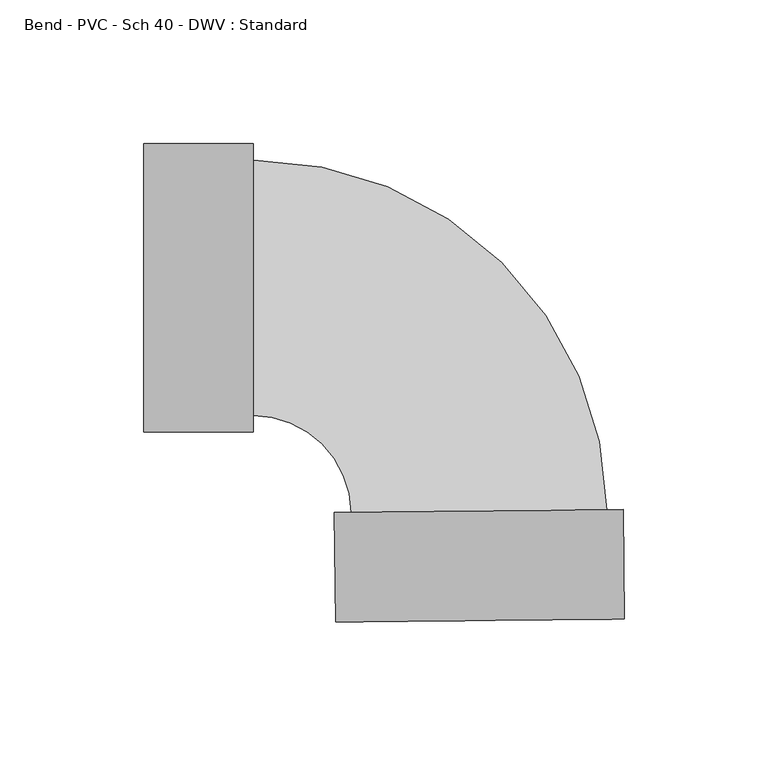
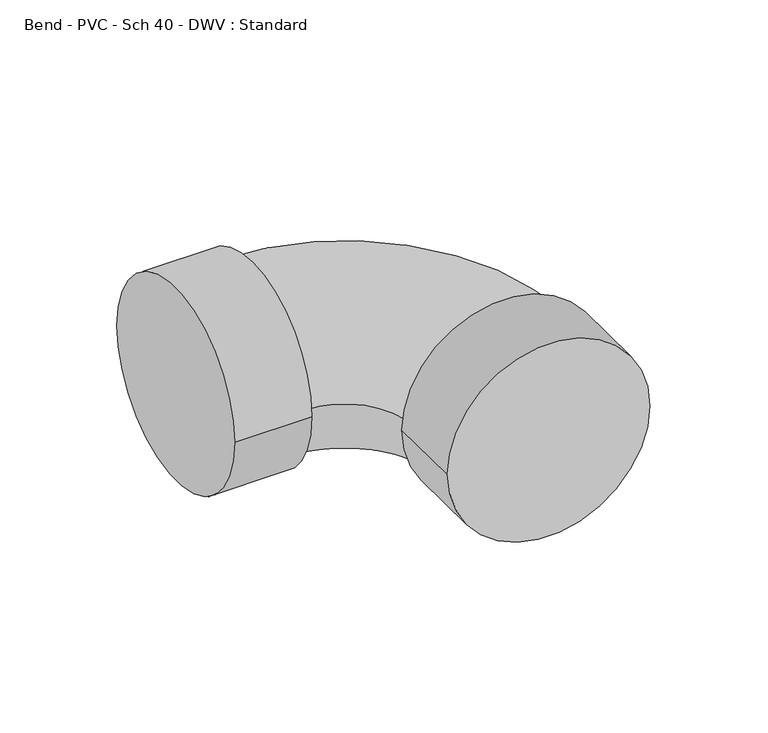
"""IFC4 building model written with IfcOpenShell, lengths in millimetres: pipe fitting geometry, Bend - PVC - Sch 40 - DWV : Standard."""

from ifc_helpers import new_model, si_unit, point, frame, origin, place, context, project, spatial, circle_curve, ellipse_curve, trimmed, source, transform, mapped, element, save
from ifc_brep_helpers import plane_surface, cylinder_surface, revolved_surface, advanced_brep


def bend_pvc_sch_40_dwv_standard_00a057dc(model_context):
    return source(origin(), model_context, "Body", "AdvancedBrep", [
        advanced_brep(
        [(-115.9002, 50.2666, 0.0), (-115.9002, -50.2666, 0.0), (-77.8002, 50.2666, 0.0), (-77.8002, -50.2666, 0.0), (-77.8002, 44.45, 0.0), (-77.8002, -44.45, 0.0), (-43.6372138, -78.2589751, 0.0), (45.2579634, -77.3329837, 0.0), (51.0742479, -77.2723974, 0.0), (-49.4534983, -78.3195614, 0.0), (51.4711013, -115.3703305, 0.0), (-49.0566448, -116.4174945, 0.0)],
        [
            (0, 1, circle_curve(frame((-115.9002, 0.0, 0.0), z_axis=(-1.0, 0.0, 0.0), x_axis=(0.0, -1.0, 0.0)), 50.2666)),
            (1, 0, circle_curve(frame((-115.9002, 0.0, 0.0), z_axis=(-1.0, 0.0, 0.0), x_axis=(0.0, -1.0, 0.0)), 50.2666)),
            (2, 3, circle_curve(frame((-77.8002, 0.0, 0.0), z_axis=(1.0, 0.0, 0.0), x_axis=(0.0, -1.0, 0.0)), 50.2666)),
            (3, 2, circle_curve(frame((-77.8002, 0.0, 0.0), z_axis=(1.0, 0.0, 0.0), x_axis=(0.0, -1.0, 0.0)), 50.2666)),
            (4, 5, circle_curve(frame((-77.8002, 0.0, 0.0), z_axis=(-1.0, 0.0, 0.0), x_axis=(0.0, -1.0, 0.0)), 44.45)),
            (5, 4, circle_curve(frame((-77.8002, 0.0, 0.0), z_axis=(-1.0, 0.0, 0.0), x_axis=(0.0, -1.0, 0.0)), 44.45)),
            (1, 3),
            (2, 0),
            (6, 7, circle_curve(frame((0.8103748, -77.7959794, 0.0), z_axis=(-0.010416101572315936, 0.9999457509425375, 0.0), x_axis=(-0.9999457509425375, -0.010416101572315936, 0.0)), 44.45)),
            (7, 4, circle_curve(frame((-77.8002, -78.6148396, 0.0), z_axis=(0.0, 0.0, 1.0), x_axis=(0.0, 1.0, 0.0)), 123.0648396)),
            (5, 6, circle_curve(frame((-77.8002, -78.6148396, 0.0), z_axis=(0.0, 0.0, -1.0), x_axis=(0.0, 1.0, 0.0)), 34.1648396)),
            (7, 6, circle_curve(frame((0.8103748, -77.7959794, 0.0), z_axis=(-0.010416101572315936, 0.9999457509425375, 0.0), x_axis=(-0.9999457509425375, -0.010416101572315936, 0.0)), 44.45)),
            (8, 9, circle_curve(frame((0.8103748, -77.7959794, 0.0), z_axis=(-0.010416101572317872, 0.9999457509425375, 0.0), x_axis=(-0.9999457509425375, -0.010416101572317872, 0.0)), 50.2666)),
            (9, 8, circle_curve(frame((0.8103748, -77.7959794, 0.0), z_axis=(-0.010416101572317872, 0.9999457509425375, 0.0), x_axis=(-0.9999457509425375, -0.010416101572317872, 0.0)), 50.2666)),
            (10, 11, circle_curve(frame((1.2072283, -115.8939125, 0.0), z_axis=(0.010416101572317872, -0.9999457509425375, 0.0), x_axis=(-0.9999457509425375, -0.010416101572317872, 0.0)), 50.2666)),
            (11, 10, circle_curve(frame((1.2072283, -115.8939125, 0.0), z_axis=(0.010416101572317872, -0.9999457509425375, 0.0), x_axis=(-0.9999457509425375, -0.010416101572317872, 0.0)), 50.2666)),
            (9, 11),
            (10, 8),
        ],
        [
            plane_surface(frame((-115.9002, 0.0, 0.0), z_axis=(-1.0, 0.0, 0.0), x_axis=(0.0, 0.0, 1.0))),
            plane_surface(frame((-77.8002, 0.0, 0.0), z_axis=(1.0, 0.0, 0.0), x_axis=(0.0, 0.0, 1.0))),
            cylinder_surface(frame((-115.9002, 0.0, 0.0), z_axis=(-1.0, 0.0, 0.0), x_axis=(0.0, -1.0, 0.0)), 50.2666),
            revolved_surface(trimmed(ellipse_curve(frame((-77.8002, 0.0, 0.0), z_axis=(1.0, 0.0, 0.0), x_axis=(0.0, -1.0, 0.0)), 44.45, 44.45), [point((-77.8002, 44.45, 0.0))], [point((-77.8002, -44.45, 0.0))], True, "CARTESIAN"), (-77.8002, -78.6148396, 0.0), (0.0, 0.0, 1.0)),
            revolved_surface(trimmed(ellipse_curve(frame((-77.8002, 0.0, 0.0), z_axis=(1.0, 0.0, 0.0), x_axis=(0.0, -1.0, 0.0)), 44.45, 44.45), [point((-77.8002, -44.45, 0.0))], [point((-77.8002, 44.45, 0.0))], True, "CARTESIAN"), (-77.8002, -78.6148396, 0.0), (0.0, 0.0, 1.0)),
            plane_surface(frame((0.8103748, -77.7959794, 0.0), z_axis=(-0.010416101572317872, 0.9999457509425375, 0.0), x_axis=(0.0, 0.0, 1.0))),
            plane_surface(frame((1.2072283, -115.8939125, 0.0), z_axis=(0.010416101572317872, -0.9999457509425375, 0.0), x_axis=(0.0, 0.0, 1.0))),
            cylinder_surface(frame((0.8103748, -77.7959794, 0.0), z_axis=(-0.010416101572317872, 0.9999457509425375, 0.0), x_axis=(-0.9999457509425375, -0.010416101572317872, 0.0)), 50.2666),
        ],
        [
            (0, [[1, 2]]),
            (1, [[3, 4], [5, 6]]),
            (2, [[7, -3, 8, -2]]),
            (2, [[-8, -4, -7, -1]]),
            (3, [[9, 10, -6, 11]]),
            (4, [[-5, -10, 12, -11]]),
            (5, [[13, 14], [-12, -9]]),
            (6, [[15, 16]]),
            (7, [[17, -15, 18, -14]]),
            (7, [[-18, -16, -17, -13]]),
        ],
    ),
    ])


if __name__ == "__main__":
    model = new_model("IFC4")
    model_context = context("Model", 3, world=origin())
    ifc_project = project(units=[si_unit("LENGTHUNIT", "METRE", prefix="MILLI")], contexts=[model_context])
    site = spatial("IfcSite", under=ifc_project)
    building = spatial("IfcBuilding", under=site)
    placement = place(None, origin())
    bend_pvc_sch_40_dwv_standard_shape = bend_pvc_sch_40_dwv_standard_00a057dc(model_context)
    element("IfcPipeFitting", 1, ObjectType="Bend - PVC - Sch 40 - DWV : Standard", at=placement, inside=building, context=model_context, shape_type="MappedRepresentation", body=[
        mapped(bend_pvc_sch_40_dwv_standard_shape, transform((0.0, 0.0, 0.0), x_axis=(1.0, 0.0, 0.0), y_axis=(0.0, 1.0, 0.0), z_axis=(0.0, 0.0, 1.0))),
    ])
    save(model, "model.ifc")
